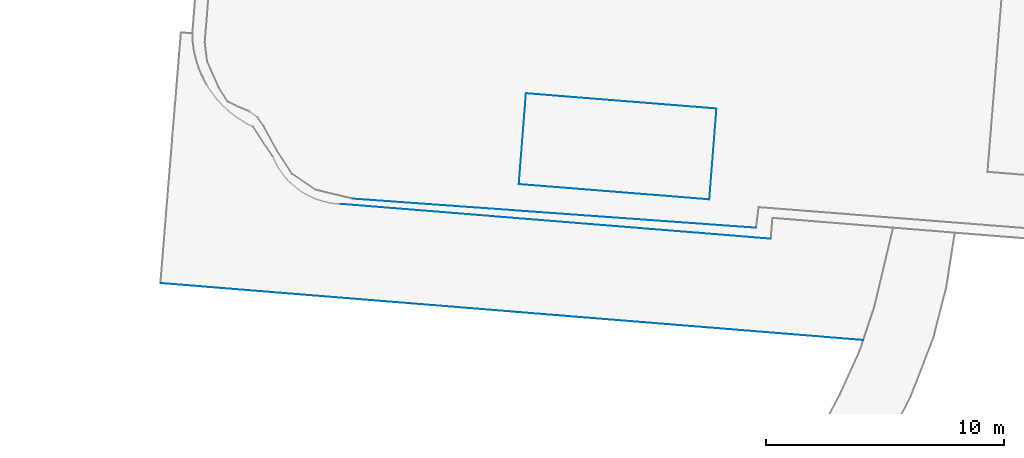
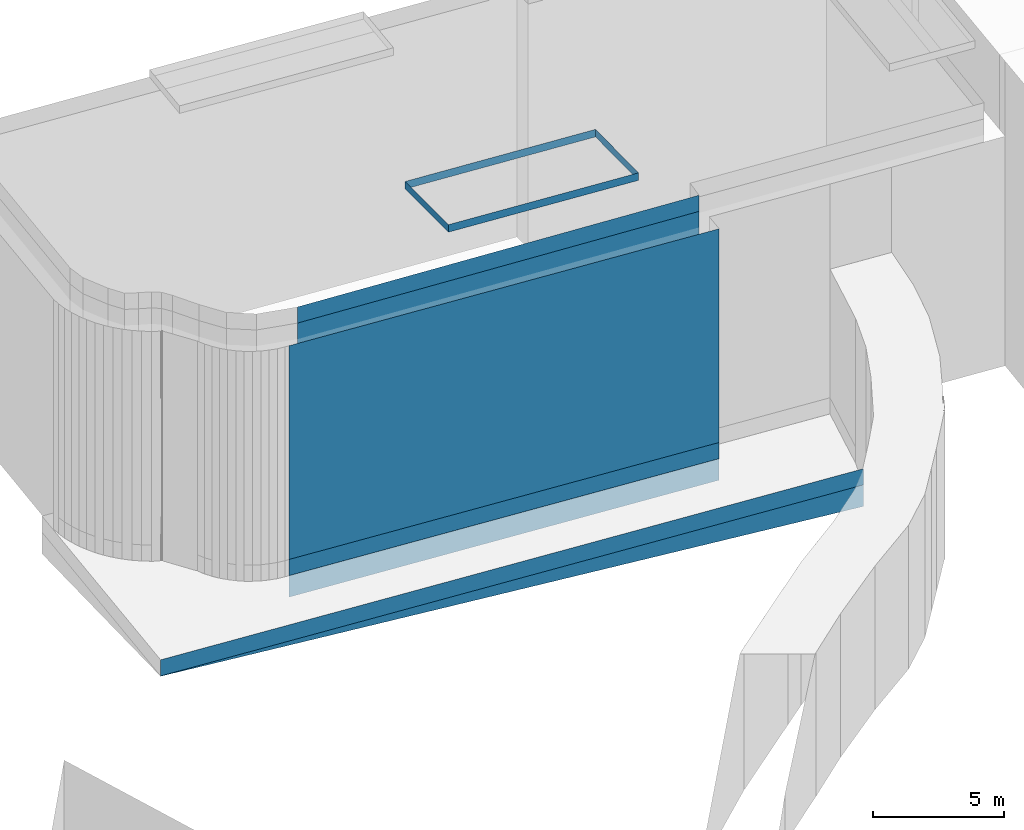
# Not in any storey, part 37 of 136: 18 walls.
"""IFC4 building model written with IfcOpenShell, lengths in metres."""

from ifc_helpers import new_model, entity, si_unit, converted_unit, frame, origin, place, context, subcontext, project, spatial, face_set, surface_model, element, save


model = new_model("IFC4")

# Units and contexts
model_context = context("Model", 3, precision=1e-05, world=origin())
body_context = subcontext(model_context, "Body", "Model", "MODEL_VIEW")
ifc_project = project(units=[converted_unit("PLANEANGLEUNIT", "DEGREE", entity("IfcRatioMeasure", 0.0174532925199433), si_unit("PLANEANGLEUNIT", "RADIAN"), dimensions=[0, 0, 0, 0, 0, 0, 0]), si_unit("AREAUNIT", "SQUARE_METRE"), si_unit("LENGTHUNIT", "METRE")], contexts=[model_context])

# Site, building
site_placement = place(None, origin())
site = spatial("IfcSite", under=ifc_project, at=site_placement, Name="_site")
building_placement = place(site_placement, origin())
building = spatial("IfcBuilding", under=site, at=building_placement, Name="_building")

# Walls
wall_1_placement = place(building_placement, origin())
element("IfcWall", 1, at=wall_1_placement, inside=building, Name="Wall", PredefinedType="NOTDEFINED", context=body_context, shape_type="SurfaceModel", body=[
    surface_model("IfcFaceBasedSurfaceModel", [(181.37, 52.45, 37.93), (199.41, 50.99, 37.93), (199.41, 50.99, 38.68), (181.37, 52.45, 38.68)], [face_set([[[0, 1, 2, 3]]])]),
])
wall_2_placement = place(building_placement, origin())
element("IfcWall", 2, at=wall_2_placement, inside=building, Name="Wall", PredefinedType="NOTDEFINED", context=body_context, shape_type="SurfaceModel", body=[
    surface_model("IfcFaceBasedSurfaceModel", [(198.79, 51.45, 49.344), (181.87, 52.67, 49.344), (181.87, 52.67, 37.935), (198.79, 51.45, 37.94)], [face_set([[[0, 1, 2, 3]]])]),
])
wall_3_placement = place(building_placement, origin())
element("IfcWall", 3, at=wall_3_placement, inside=building, Name="Wall", PredefinedType="NOTDEFINED", context=body_context, shape_type="SurfaceModel", body=[
    surface_model("IfcFaceBasedSurfaceModel", [(197.13, 56.45, 50.7), (196.83, 52.64, 51.1), (196.83, 52.64, 50.75), (197.13, 56.45, 50.35)], [face_set([[[0, 1, 2, 3]]])]),
])
for number, where, name in (
    (4, (0.0, 0.0, 0.0), "Wall"),
    (5, (0.0, 0.0, 0.0), "Wall"),
):
    element("IfcWall", number, at=place(building_placement, frame(where)), inside=building, Name=name, PredefinedType="NOTDEFINED", context=body_context, shape_type="SurfaceModel", body=[
        surface_model("IfcFaceBasedSurfaceModel", [(198.79, 51.45, 49.344), (181.87, 52.67, 49.344), (181.87, 52.67, 50.094), (198.79, 51.45, 50.094)], [face_set([[[0, 1, 2, 3]]])]),
    ])
wall_4_placement = place(building_placement, origin())
element("IfcWall", 6, at=wall_4_placement, inside=building, Name="Wall", PredefinedType="NOTDEFINED", context=body_context, shape_type="SurfaceModel", body=[
    surface_model("IfcFaceBasedSurfaceModel", [(189.14, 57.09, 50.69), (197.13, 56.45, 50.7), (197.13, 56.45, 50.35), (189.14, 57.09, 50.34)], [face_set([[[0, 1, 2, 3]]])]),
])
wall_5_placement = place(building_placement, origin())
element("IfcWall", 7, at=wall_5_placement, inside=building, Name="Wall", PredefinedType="NOTDEFINED", context=body_context, shape_type="SurfaceModel", body=[
    surface_model("IfcFaceBasedSurfaceModel", [(203.29, 46.74, 37.93), (173.81, 49.13, 37.93), (173.81, 49.13, 37.916), (203.29, 46.74, 36.93)], [face_set([[[0, 1, 2, 3]]])]),
])
wall_6_placement = place(building_placement, origin())
element("IfcWall", 8, at=wall_6_placement, inside=building, Name="Wall", PredefinedType="NOTDEFINED", context=body_context, shape_type="SurfaceModel", body=[
    surface_model("IfcFaceBasedSurfaceModel", [(199.41, 50.99, 48.6), (181.37, 52.45, 48.6), (181.37, 52.45, 37.93), (199.41, 50.99, 37.93)], [face_set([[[0, 1, 2, 3]]])]),
])
wall_7_placement = place(building_placement, origin())
element("IfcWall", 9, at=wall_7_placement, inside=building, Name="Wall", PredefinedType="NOTDEFINED", context=body_context, shape_type="SurfaceModel", body=[
    surface_model("IfcFaceBasedSurfaceModel", [(181.37, 52.45, 37.93), (199.41, 50.99, 37.93), (199.41, 50.99, 36.93), (181.37, 52.45, 36.93)], [face_set([[[0, 1, 2, 3]]])]),
])
wall_8_placement = place(building_placement, origin())
element("IfcWall", 10, at=wall_8_placement, inside=building, Name="Wall", PredefinedType="NOTDEFINED", context=body_context, shape_type="SurfaceModel", body=[
    surface_model("IfcFaceBasedSurfaceModel", [(188.84, 53.28, 51.1), (189.14, 57.09, 50.69), (189.14, 57.09, 50.34), (188.84, 53.28, 50.75)], [face_set([[[0, 1, 2, 3]]])]),
])
wall_9_placement = place(building_placement, origin())
element("IfcWall", 11, at=wall_9_placement, inside=building, Name="Wall", PredefinedType="NOTDEFINED", context=body_context, shape_type="SurfaceModel", body=[
    surface_model("IfcFaceBasedSurfaceModel", [(203.29, 46.74, 37.93), (173.81, 49.13, 37.93), (173.81, 49.13, 38.68), (203.29, 46.74, 38.68)], [face_set([[[0, 1, 2, 3]]])]),
])
wall_10_placement = place(building_placement, origin())
element("IfcWall", 12, at=wall_10_placement, inside=building, Name="Wall", PredefinedType="NOTDEFINED", context=body_context, shape_type="SurfaceModel", body=[
    surface_model("IfcFaceBasedSurfaceModel", [(196.83, 52.64, 51.1), (188.84, 53.28, 51.1), (188.84, 53.28, 50.75), (196.83, 52.64, 50.75)], [face_set([[[0, 1, 2, 3]]])]),
])
wall_11_placement = place(building_placement, origin())
element("IfcWall", 13, at=wall_11_placement, inside=building, Name="Wall", PredefinedType="NOTDEFINED", context=body_context, shape_type="SurfaceModel", body=[
    surface_model("IfcFaceBasedSurfaceModel", [(203.29, 46.74, 37.93), (173.81, 49.13, 37.93), (173.81, 49.13, 38.68), (203.29, 46.74, 38.68)], [face_set([[[0, 1, 2, 3]]])]),
])
wall_12_placement = place(building_placement, origin())
element("IfcWall", 14, at=wall_12_placement, inside=building, Name="Wall", PredefinedType="NOTDEFINED", context=body_context, shape_type="SurfaceModel", body=[
    surface_model("IfcFaceBasedSurfaceModel", [(197.13, 56.45, 50.7), (196.83, 52.64, 51.1), (196.83, 52.64, 50.75), (197.13, 56.45, 50.35)], [face_set([[[0, 1, 2, 3]]])]),
])
wall_13_placement = place(building_placement, origin())
element("IfcWall", 15, at=wall_13_placement, inside=building, Name="Wall", PredefinedType="NOTDEFINED", context=body_context, shape_type="SurfaceModel", body=[
    surface_model("IfcFaceBasedSurfaceModel", [(188.84, 53.28, 51.1), (189.14, 57.09, 50.69), (189.14, 57.09, 50.34), (188.84, 53.28, 50.75)], [face_set([[[0, 1, 2, 3]]])]),
])
wall_14_placement = place(building_placement, origin())
element("IfcWall", 16, at=wall_14_placement, inside=building, Name="Wall", PredefinedType="NOTDEFINED", context=body_context, shape_type="SurfaceModel", body=[
    surface_model("IfcFaceBasedSurfaceModel", [(196.83, 52.64, 51.1), (188.84, 53.28, 51.1), (188.84, 53.28, 50.75), (196.83, 52.64, 50.75)], [face_set([[[0, 1, 2, 3]]])]),
])
wall_15_placement = place(building_placement, origin())
element("IfcWall", 17, at=wall_15_placement, inside=building, Name="Wall", PredefinedType="NOTDEFINED", context=body_context, shape_type="SurfaceModel", body=[
    surface_model("IfcFaceBasedSurfaceModel", [(189.14, 57.09, 50.69), (197.13, 56.45, 50.7), (197.13, 56.45, 50.35), (189.14, 57.09, 50.34)], [face_set([[[0, 1, 2, 3]]])]),
])
wall_16_placement = place(building_placement, origin())
element("IfcWall", 18, at=wall_16_placement, inside=building, Name="Wall", PredefinedType="NOTDEFINED", context=body_context, shape_type="SurfaceModel", body=[
    surface_model("IfcFaceBasedSurfaceModel", [(181.37, 52.45, 37.93), (199.41, 50.99, 37.93), (199.41, 50.99, 38.68), (181.37, 52.45, 38.68)], [face_set([[[0, 1, 2, 3]]])]),
])

save(model, "model.ifc")
